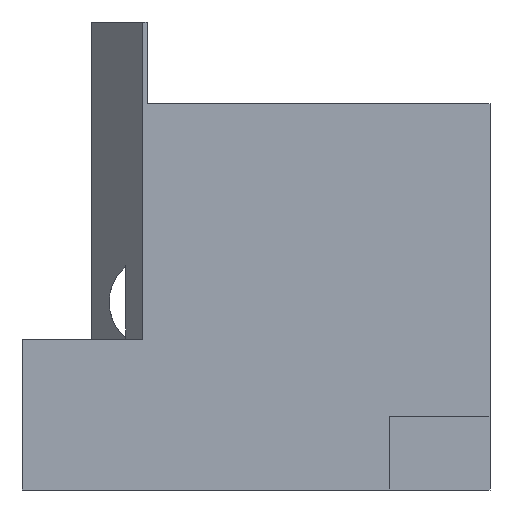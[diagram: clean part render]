
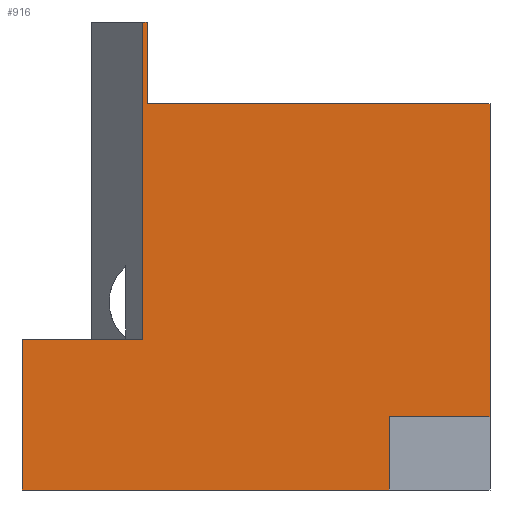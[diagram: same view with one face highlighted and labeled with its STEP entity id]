
A CAD part, left-side view. The second image highlights one B-rep face of the part: STEP entity #916.
In plain terms, the highlighted planar face has unit normal (-1, 0, 0).
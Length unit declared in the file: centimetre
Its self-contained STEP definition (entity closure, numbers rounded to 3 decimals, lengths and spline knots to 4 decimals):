
#37 = EDGE_CURVE ( 'NONE', #452, #787, #80, .T. ) ;
#59 = LINE ( 'NONE', #922, #157 ) ;
#61 = EDGE_CURVE ( 'NONE', #313, #787, #306, .T. ) ;
#64 = DIRECTION ( 'NONE',  ( 0., 0., -1. ) ) ;
#66 = VECTOR ( 'NONE', #809, 100. ) ;
#80 = LINE ( 'NONE', #781, #117 ) ;
#86 = ORIENTED_EDGE ( 'NONE', *, *, #549, .T. ) ;
#98 = EDGE_CURVE ( 'NONE', #635, #372, #342, .T. ) ;
#105 = CARTESIAN_POINT ( 'NONE',  ( 0., 1000., 1000. ) ) ;
#108 = DIRECTION ( 'NONE',  ( 0., 1., 0. ) ) ;
#111 = CARTESIAN_POINT ( 'NONE',  ( 0., 0., 824.8257 ) ) ;
#117 = VECTOR ( 'NONE', #318, 100. ) ;
#127 = VECTOR ( 'NONE', #64, 100. ) ;
#129 = AXIS2_PLACEMENT_3D ( 'NONE', #105, #657, #652 ) ;
#157 = VECTOR ( 'NONE', #927, 100. ) ;
#181 = VECTOR ( 'NONE', #689, 100. ) ;
#195 = CARTESIAN_POINT ( 'NONE',  ( 0., 0., 156.6577 ) ) ;
#235 = VERTEX_POINT ( 'NONE', #195 ) ;
#236 = VECTOR ( 'NONE', #709, 100. ) ;
#238 = DIRECTION ( 'NONE',  ( 0., 0., -1. ) ) ;
#239 = ORIENTED_EDGE ( 'NONE', *, *, #61, .F. ) ;
#251 = VERTEX_POINT ( 'NONE', #289 ) ;
#289 = CARTESIAN_POINT ( 'NONE',  ( 0., 742.5127, 1000. ) ) ;
#291 = ORIENTED_EDGE ( 'NONE', *, *, #609, .F. ) ;
#306 = LINE ( 'NONE', #649, #642 ) ;
#313 = VERTEX_POINT ( 'NONE', #744 ) ;
#318 = DIRECTION ( 'NONE',  ( 0., -1., 0. ) ) ;
#333 = LINE ( 'NONE', #512, #1000 ) ;
#342 = LINE ( 'NONE', #725, #66 ) ;
#359 = EDGE_LOOP ( 'NONE', ( #562, #694, #484, #639, #291, #451, #86, #687, #239, #964 ) ) ;
#360 = LINE ( 'NONE', #539, #181 ) ;
#372 = VERTEX_POINT ( 'NONE', #111 ) ;
#404 = CARTESIAN_POINT ( 'NONE',  ( 0., 732.3704, 1000. ) ) ;
#410 = PLANE ( 'NONE',  #129 ) ;
#417 = DIRECTION ( 'NONE',  ( 0., 0., -1. ) ) ;
#449 = CARTESIAN_POINT ( 'NONE',  ( 0., 1000., 1000. ) ) ;
#451 = ORIENTED_EDGE ( 'NONE', *, *, #522, .F. ) ;
#452 = VERTEX_POINT ( 'NONE', #608 ) ;
#453 = CARTESIAN_POINT ( 'NONE',  ( 0., 742.5127, 320.5743 ) ) ;
#465 = CARTESIAN_POINT ( 'NONE',  ( 0., 732.3704, 824.8257 ) ) ;
#473 = CARTESIAN_POINT ( 'NONE',  ( 0., 742.5127, 320.5743 ) ) ;
#484 = ORIENTED_EDGE ( 'NONE', *, *, #631, .F. ) ;
#499 = CARTESIAN_POINT ( 'NONE',  ( 0., 1000., 320.5743 ) ) ;
#512 = CARTESIAN_POINT ( 'NONE',  ( 0., 0., 156.6577 ) ) ;
#518 = EDGE_CURVE ( 'NONE', #251, #716, #360, .T. ) ;
#522 = EDGE_CURVE ( 'NONE', #704, #688, #59, .T. ) ;
#529 = LINE ( 'NONE', #449, #127 ) ;
#539 = CARTESIAN_POINT ( 'NONE',  ( 0., 1000., 1000. ) ) ;
#549 = EDGE_CURVE ( 'NONE', #704, #452, #529, .T. ) ;
#562 = ORIENTED_EDGE ( 'NONE', *, *, #939, .F. ) ;
#576 = LINE ( 'NONE', #807, #800 ) ;
#608 = CARTESIAN_POINT ( 'NONE',  ( 0., 1000., 0. ) ) ;
#609 = EDGE_CURVE ( 'NONE', #688, #251, #620, .T. ) ;
#620 = LINE ( 'NONE', #453, #674 ) ;
#631 = EDGE_CURVE ( 'NONE', #716, #635, #857, .T. ) ;
#635 = VERTEX_POINT ( 'NONE', #858 ) ;
#639 = ORIENTED_EDGE ( 'NONE', *, *, #518, .F. ) ;
#642 = VECTOR ( 'NONE', #238, 100. ) ;
#649 = CARTESIAN_POINT ( 'NONE',  ( 0., 215.5541, 0. ) ) ;
#652 = DIRECTION ( 'NONE',  ( 0., 0., -1. ) ) ;
#657 = DIRECTION ( 'NONE',  ( 1., 0., 0. ) ) ;
#674 = VECTOR ( 'NONE', #934, 100. ) ;
#687 = ORIENTED_EDGE ( 'NONE', *, *, #37, .T. ) ;
#688 = VERTEX_POINT ( 'NONE', #473 ) ;
#689 = DIRECTION ( 'NONE',  ( 0., -1., 0. ) ) ;
#694 = ORIENTED_EDGE ( 'NONE', *, *, #98, .F. ) ;
#704 = VERTEX_POINT ( 'NONE', #499 ) ;
#709 = DIRECTION ( 'NONE',  ( 0., 0., -1. ) ) ;
#716 = VERTEX_POINT ( 'NONE', #404 ) ;
#725 = CARTESIAN_POINT ( 'NONE',  ( 0., 732.3704, 824.8257 ) ) ;
#744 = CARTESIAN_POINT ( 'NONE',  ( 0., 215.5541, 156.6577 ) ) ;
#781 = CARTESIAN_POINT ( 'NONE',  ( 0., 1000., 0. ) ) ;
#787 = VERTEX_POINT ( 'NONE', #956 ) ;
#800 = VECTOR ( 'NONE', #417, 100. ) ;
#807 = CARTESIAN_POINT ( 'NONE',  ( 0., 0., 1000. ) ) ;
#809 = DIRECTION ( 'NONE',  ( 0., -1., 0. ) ) ;
#857 = LINE ( 'NONE', #465, #236 ) ;
#858 = CARTESIAN_POINT ( 'NONE',  ( 0., 732.3704, 824.8257 ) ) ;
#885 = FACE_OUTER_BOUND ( 'NONE', #359, .T. ) ;
#916 = ADVANCED_FACE ( 'NONE', ( #885 ), #410, .F. ) ;
#922 = CARTESIAN_POINT ( 'NONE',  ( 0., 742.5127, 320.5743 ) ) ;
#927 = DIRECTION ( 'NONE',  ( 0., -1., 0. ) ) ;
#934 = DIRECTION ( 'NONE',  ( 0., 0., 1. ) ) ;
#939 = EDGE_CURVE ( 'NONE', #372, #235, #576, .T. ) ;
#956 = CARTESIAN_POINT ( 'NONE',  ( 0., 215.5541, 0. ) ) ;
#964 = ORIENTED_EDGE ( 'NONE', *, *, #985, .F. ) ;
#985 = EDGE_CURVE ( 'NONE', #235, #313, #333, .T. ) ;
#1000 = VECTOR ( 'NONE', #108, 100. ) ;
